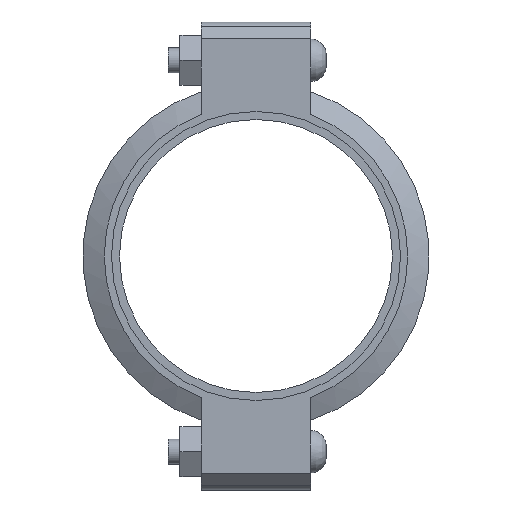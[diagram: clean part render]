
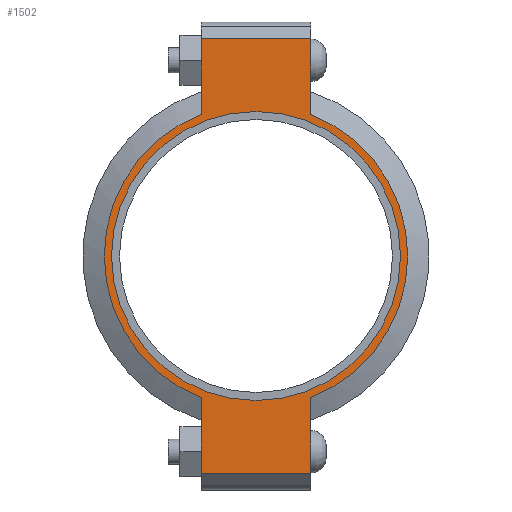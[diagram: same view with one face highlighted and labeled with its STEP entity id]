
A CAD part, left-side view. The second image highlights one B-rep face of the part: STEP entity #1502.
In plain terms, the highlighted planar face has unit normal (-1, 0, 0) as drawn and (0, 0, 1) by its records, which use the part's own axes.
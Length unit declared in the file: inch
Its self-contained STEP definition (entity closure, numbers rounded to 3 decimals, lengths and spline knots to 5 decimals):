
#126=LINE('',#2621,#219);
#134=LINE('',#2657,#227);
#141=LINE('',#2678,#234);
#150=LINE('',#2710,#243);
#151=LINE('',#2714,#244);
#152=LINE('',#2716,#245);
#219=VECTOR('',#2145,0.3937);
#227=VECTOR('',#2161,0.3937);
#234=VECTOR('',#2180,0.3937);
#243=VECTOR('',#2205,0.3937);
#244=VECTOR('',#2210,0.3937);
#245=VECTOR('',#2211,0.3937);
#301=FACE_BOUND('',#479,.T.);
#373=FACE_OUTER_BOUND('',#478,.T.);
#478=EDGE_LOOP('',(#1243,#1244,#1245,#1246,#1247,#1248,#1249,#1250));
#479=EDGE_LOOP('',(#1251));
#551=CIRCLE('',#1721,4.3125);
#577=CIRCLE('',#1780,4.53);
#578=CIRCLE('',#1781,4.53);
#643=VERTEX_POINT('',#2437);
#686=VERTEX_POINT('',#2618);
#687=VERTEX_POINT('',#2620);
#698=VERTEX_POINT('',#2652);
#699=VERTEX_POINT('',#2656);
#706=VERTEX_POINT('',#2675);
#707=VERTEX_POINT('',#2677);
#717=VERTEX_POINT('',#2713);
#718=VERTEX_POINT('',#2715);
#799=EDGE_CURVE('',#643,#643,#551,.T.);
#860=EDGE_CURVE('',#687,#686,#126,.T.);
#874=EDGE_CURVE('',#699,#698,#134,.T.);
#884=EDGE_CURVE('',#707,#706,#141,.T.);
#899=EDGE_CURVE('',#699,#686,#150,.T.);
#900=EDGE_CURVE('',#698,#707,#577,.T.);
#901=EDGE_CURVE('',#717,#706,#151,.T.);
#902=EDGE_CURVE('',#717,#718,#152,.T.);
#903=EDGE_CURVE('',#718,#687,#578,.T.);
#1243=ORIENTED_EDGE('',*,*,#899,.F.);
#1244=ORIENTED_EDGE('',*,*,#874,.T.);
#1245=ORIENTED_EDGE('',*,*,#900,.T.);
#1246=ORIENTED_EDGE('',*,*,#884,.T.);
#1247=ORIENTED_EDGE('',*,*,#901,.F.);
#1248=ORIENTED_EDGE('',*,*,#902,.T.);
#1249=ORIENTED_EDGE('',*,*,#903,.T.);
#1250=ORIENTED_EDGE('',*,*,#860,.T.);
#1251=ORIENTED_EDGE('',*,*,#799,.T.);
#1344=PLANE('',#1779);
#1502=ADVANCED_FACE('',(#373,#301),#1344,.T.);
#1721=AXIS2_PLACEMENT_3D('',#2439,#2021,#2022);
#1779=AXIS2_PLACEMENT_3D('',#2711,#2206,#2207);
#1780=AXIS2_PLACEMENT_3D('',#2712,#2208,#2209);
#1781=AXIS2_PLACEMENT_3D('',#2717,#2212,#2213);
#2021=DIRECTION('center_axis',(0.,0.,-1.));
#2022=DIRECTION('ref_axis',(-1.,0.,0.));
#2145=DIRECTION('',(-1.,0.,0.));
#2161=DIRECTION('',(1.,0.,0.));
#2180=DIRECTION('',(1.,0.,0.));
#2205=DIRECTION('',(0.,1.,0.));
#2206=DIRECTION('center_axis',(0.,0.,1.));
#2207=DIRECTION('ref_axis',(1.,0.,0.));
#2208=DIRECTION('center_axis',(0.,0.,1.));
#2209=DIRECTION('ref_axis',(-1.,0.,0.));
#2210=DIRECTION('',(0.,-1.,0.));
#2211=DIRECTION('',(-1.,0.,0.));
#2212=DIRECTION('center_axis',(0.,0.,1.));
#2213=DIRECTION('ref_axis',(-1.,0.,0.));
#2437=CARTESIAN_POINT('',(4.3125,0.,1.16));
#2439=CARTESIAN_POINT('Origin',(0.,0.,1.16));
#2618=CARTESIAN_POINT('',(-6.485,1.63,1.16));
#2620=CARTESIAN_POINT('',(-4.22658,1.63,1.16));
#2621=CARTESIAN_POINT('',(-6.985,1.63,1.16));
#2652=CARTESIAN_POINT('',(-4.22658,-1.63,1.16));
#2656=CARTESIAN_POINT('',(-6.485,-1.63,1.16));
#2657=CARTESIAN_POINT('',(6.985,-1.63,1.16));
#2675=CARTESIAN_POINT('',(6.485,-1.63,1.16));
#2677=CARTESIAN_POINT('',(4.22658,-1.63,1.16));
#2678=CARTESIAN_POINT('',(6.985,-1.63,1.16));
#2710=CARTESIAN_POINT('',(-6.485,0.815,1.16));
#2711=CARTESIAN_POINT('Origin',(0.,0.,
1.16));
#2712=CARTESIAN_POINT('Origin',(0.,0.,1.16));
#2713=CARTESIAN_POINT('',(6.485,1.63,1.16));
#2714=CARTESIAN_POINT('',(6.485,-0.815,1.16));
#2715=CARTESIAN_POINT('',(4.22658,1.63,1.16));
#2716=CARTESIAN_POINT('',(-6.985,1.63,1.16));
#2717=CARTESIAN_POINT('Origin',(0.,0.,1.16));
